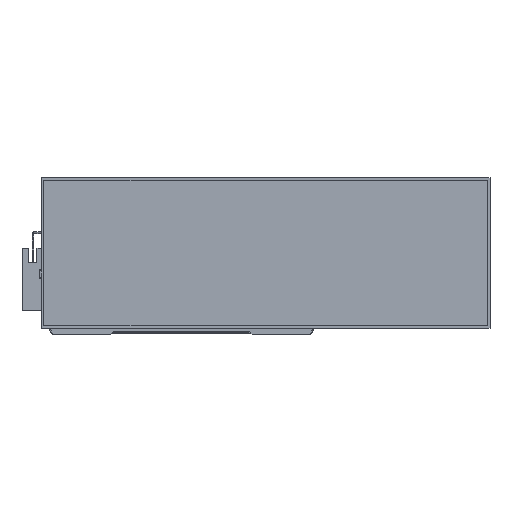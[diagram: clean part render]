
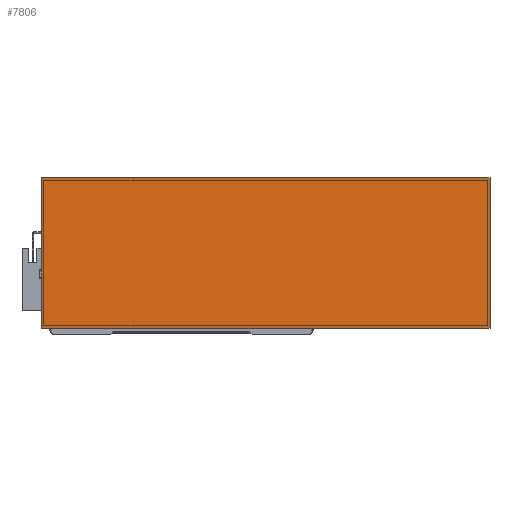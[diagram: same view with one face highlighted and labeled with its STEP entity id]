
A CAD part, top view. The second image highlights one B-rep face of the part: STEP entity #7806.
In plain terms, the highlighted planar face has unit normal (0, 0, 1).
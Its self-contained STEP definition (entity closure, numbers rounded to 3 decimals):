
#507 = CARTESIAN_POINT ( 'NONE',  ( 0., 0., 50. ) ) ;
#1829 = ORIENTED_EDGE ( 'NONE', *, *, #17603, .T. ) ;
#2385 = VERTEX_POINT ( 'NONE', #5294 ) ;
#2632 = DIRECTION ( 'NONE',  ( 0., -1., 0. ) ) ;
#2746 = EDGE_CURVE ( 'NONE', #17736, #4787, #24868, .T. ) ;
#3406 = DIRECTION ( 'NONE',  ( 1., 0., 0. ) ) ;
#4617 = ORIENTED_EDGE ( 'NONE', *, *, #23116, .T. ) ;
#4787 = VERTEX_POINT ( 'NONE', #17613 ) ;
#5294 = CARTESIAN_POINT ( 'NONE',  ( 0., 0., 50. ) ) ;
#7426 = VERTEX_POINT ( 'NONE', #22158 ) ;
#7806 = ADVANCED_FACE ( 'NONE', ( #23060 ), #8659, .F. ) ;
#8348 = DIRECTION ( 'NONE',  ( -1., 0., 0. ) ) ;
#8426 = DIRECTION ( 'NONE',  ( 0., 0., -1. ) ) ;
#8600 = CARTESIAN_POINT ( 'NONE',  ( 0., 0., 50. ) ) ;
#8659 = PLANE ( 'NONE',  #26225 ) ;
#10665 = ORIENTED_EDGE ( 'NONE', *, *, #2746, .T. ) ;
#11022 = CARTESIAN_POINT ( 'NONE',  ( 277., 0., 50. ) ) ;
#11609 = LINE ( 'NONE', #12723, #22022 ) ;
#12723 = CARTESIAN_POINT ( 'NONE',  ( 0., 93., 50. ) ) ;
#13309 = VECTOR ( 'NONE', #2632, 1000. ) ;
#14346 = VECTOR ( 'NONE', #20602, 1000. ) ;
#14777 = DIRECTION ( 'NONE',  ( -1., 0., 0. ) ) ;
#14958 = EDGE_LOOP ( 'NONE', ( #25335, #4617, #10665, #1829 ) ) ;
#15969 = VECTOR ( 'NONE', #3406, 1000. ) ;
#16653 = LINE ( 'NONE', #18195, #15969 ) ;
#17603 = EDGE_CURVE ( 'NONE', #4787, #7426, #11609, .T. ) ;
#17613 = CARTESIAN_POINT ( 'NONE',  ( 277., 93., 50. ) ) ;
#17736 = VERTEX_POINT ( 'NONE', #11022 ) ;
#18195 = CARTESIAN_POINT ( 'NONE',  ( 0., 0., 50. ) ) ;
#19532 = LINE ( 'NONE', #507, #13309 ) ;
#20141 = CARTESIAN_POINT ( 'NONE',  ( 277., 0., 50. ) ) ;
#20602 = DIRECTION ( 'NONE',  ( 0., 1., 0. ) ) ;
#22022 = VECTOR ( 'NONE', #14777, 1000. ) ;
#22158 = CARTESIAN_POINT ( 'NONE',  ( 0., 93., 50. ) ) ;
#22327 = EDGE_CURVE ( 'NONE', #7426, #2385, #19532, .T. ) ;
#23060 = FACE_OUTER_BOUND ( 'NONE', #14958, .T. ) ;
#23116 = EDGE_CURVE ( 'NONE', #2385, #17736, #16653, .T. ) ;
#24868 = LINE ( 'NONE', #20141, #14346 ) ;
#25335 = ORIENTED_EDGE ( 'NONE', *, *, #22327, .T. ) ;
#26225 = AXIS2_PLACEMENT_3D ( 'NONE', #8600, #8426, #8348 ) ;
